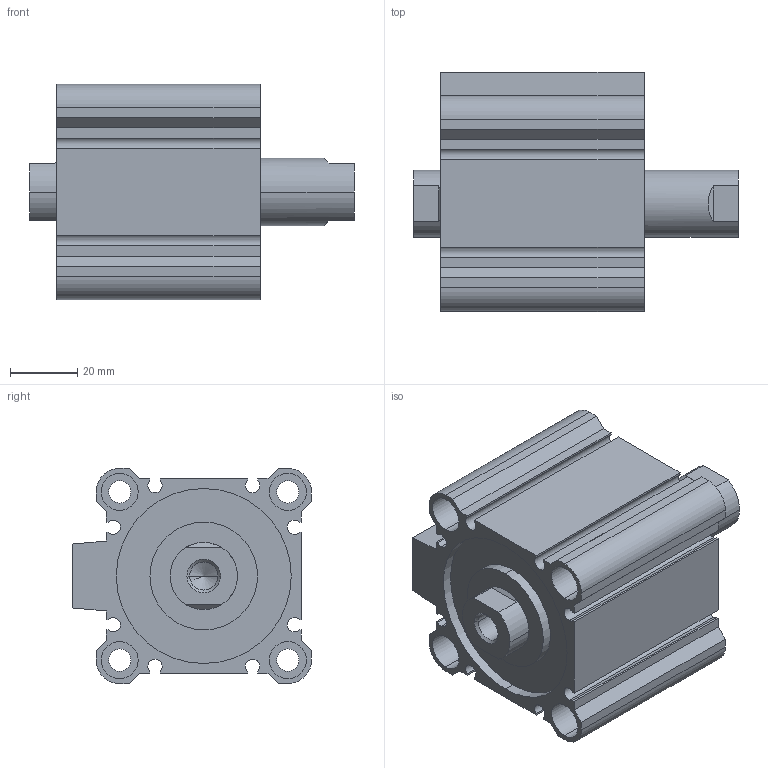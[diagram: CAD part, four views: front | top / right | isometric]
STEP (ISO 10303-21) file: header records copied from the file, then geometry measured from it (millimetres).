
FILE_DESCRIPTION (( 'STEP AP203' ), '1' );
FILE_NAME ('CCMB50-20F-P.STEP', '2020-08-05T11:27:01', ( '' ), ( '' ), 'SwSTEP 2.0', 'SolidWorks 2019', '' );
FILE_SCHEMA (( 'CONFIG_CONTROL_DESIGN' ));
Length unit declared in the file: millimetre
Products named in the file (1): CCMB50-20F-P
Bounding box: 96.5 x 71 x 64 mm (x, y, z)
Volume: 174343 mm3; surface area: 58562.4 mm2
Topology: 2 solids, 2 shells, 164 faces, 414 edges, 270 vertices
Faces by surface type: plane 78, cylinder 74, cone 12
Entity records: 5029 total; most frequent: DIRECTION 896, CARTESIAN_POINT 857, ORIENTED_EDGE 820, EDGE_CURVE 410, AXIS2_PLACEMENT_3D 325, VERTEX_POINT 270, VECTOR 246, LINE 246
